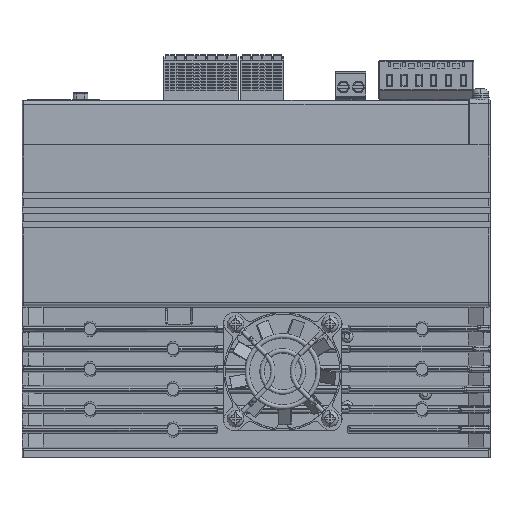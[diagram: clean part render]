
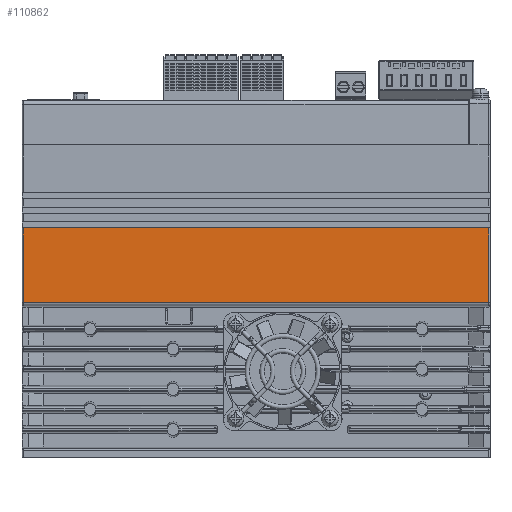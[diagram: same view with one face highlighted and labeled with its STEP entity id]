
A CAD part, left-side view. The second image highlights one B-rep face of the part: STEP entity #110862.
In plain terms, the highlighted planar face has unit normal (-1, 0, 0).
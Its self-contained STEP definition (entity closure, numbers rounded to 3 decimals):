
#9=CARTESIAN_POINT('',(-20.,78.5,77.474));
#26=DIRECTION('',(0.,0.,1.));
#27=VECTOR('',#26,25.229);
#28=CARTESIAN_POINT('',(-20.,78.5,52.245));
#29=LINE('',#28,#27);
#30=DIRECTION('',(0.,-1.,0.));
#31=VECTOR('',#30,157.);
#32=CARTESIAN_POINT('',(-20.,78.5,77.474));
#33=LINE('',#32,#31);
#34=DIRECTION('',(0.,0.,-1.));
#35=VECTOR('',#34,25.229);
#36=CARTESIAN_POINT('',(-20.,-78.5,77.474));
#37=LINE('',#36,#35);
#38=DIRECTION('',(0.,1.,0.));
#39=VECTOR('',#38,157.);
#40=CARTESIAN_POINT('',(-20.,-78.5,52.245));
#41=LINE('',#40,#39);
#87137=VERTEX_POINT('',#9);
#87138=CARTESIAN_POINT('',(-20.,78.5,52.245));
#87139=VERTEX_POINT('',#87138);
#87150=CARTESIAN_POINT('',(-20.,-78.5,52.245));
#87151=VERTEX_POINT('',#87150);
#87166=CARTESIAN_POINT('',(-20.,-78.5,77.474));
#87167=VERTEX_POINT('',#87166);
#110849=CARTESIAN_POINT('',(-20.,75.5,0.));
#110850=DIRECTION('',(-1.,0.,0.));
#110851=DIRECTION('',(0.,-1.,0.));
#110852=AXIS2_PLACEMENT_3D('',#110849,#110850,#110851);
#110853=PLANE('',#110852);
#110854=ORIENTED_EDGE('',*,*,#110840,.T.);
#110855=ORIENTED_EDGE('',*,*,#110829,.T.);
#110857=ORIENTED_EDGE('',*,*,#110856,.T.);
#110859=ORIENTED_EDGE('',*,*,#110858,.T.);
#110860=EDGE_LOOP('',(#110854,#110855,#110857,#110859));
#110861=FACE_OUTER_BOUND('',#110860,.F.);
#110862=ADVANCED_FACE('',(#110861),#110853,.T.);
#110829=EDGE_CURVE('',#87137,#87167,#33,.T.);
#110840=EDGE_CURVE('',#87139,#87137,#29,.T.);
#110856=EDGE_CURVE('',#87167,#87151,#37,.T.);
#110858=EDGE_CURVE('',#87151,#87139,#41,.T.);
